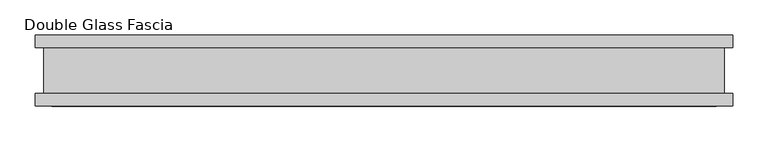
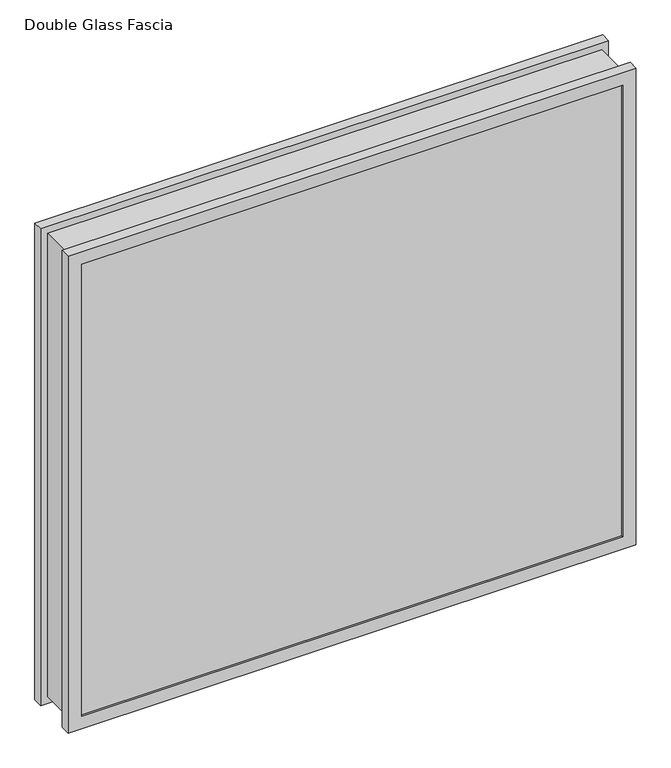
"""IFC4 building model written with IfcOpenShell, lengths in millimetres: proxy geometry, Glass_Fascia-Teknion-FHSG2-Double_Square_Corner-R2022 : Double Glass Fascia."""

from ifc_helpers import new_model, si_unit, frame, origin, place, context, project, spatial, polyline, outline, extrude, faceted_brep, source, transform, mapped, element, save


def double_glass_fascia_efe5b235(model_context):
    return source(origin(), model_context, "Body", "SolidModel", [
        faceted_brep([(479.6564641, -32.4352299, 863.600885), (479.6564641, -32.4352299, 15.0359151), (479.6564641, 32.4352299, 15.0359151), (479.6564641, 32.4352299, 863.600885), (-479.6564641, -32.4352299, 15.0359151), (-479.6564641, 32.4352299, 15.0359151), (-479.6564641, -32.4352299, 863.600885), (-479.6564641, 32.4352299, 863.600885), (468.4795792, 38.8962152, 852.4240001), (468.4795792, 38.8962152, 26.2128), (468.4795792, -38.8962152, 26.2128), (468.4795792, -38.8962152, 852.4240001), (485.2142184, 47.1322551, 869.1586393), (485.2142184, 47.1322551, 9.4781608), (485.2142184, 38.8962152, 9.4781608), (485.2142184, 38.8962152, 869.1586393), (468.3017792, 50.0558594, 852.2462001), (468.3017792, 50.0558594, 26.3906), (468.3017792, 47.1322551, 26.3906), (468.3017792, 47.1322551, 852.2462001), (491.5173792, 32.4352299, 875.4618001), (491.5173792, 32.4352299, 3.175), (491.5173792, 50.0558594, 3.175), (491.5173792, 50.0558594, 875.4618001), (-468.4795792, 38.8962152, 26.2128), (-468.4795792, -38.8962152, 26.2128), (-485.2142184, 47.1322551, 9.4781608), (-485.2142184, 38.8962152, 9.4781608), (-468.3017792, 50.0558594, 26.3906), (-468.3017792, 47.1322551, 26.3906), (-491.5173792, 32.4352299, 3.175), (-491.5173792, 50.0558594, 3.175), (-468.4795792, 38.8962152, 852.4240001), (-468.4795792, -38.8962152, 852.4240001), (-485.2142184, 47.1322551, 869.1586393), (-485.2142184, 38.8962152, 869.1586393), (-468.3017792, 50.0558594, 852.2462001), (-468.3017792, 47.1322551, 852.2462001), (-491.5173792, 32.4352299, 875.4618001), (-491.5173792, 50.0558594, 875.4618001), (491.5173792, -50.0558594, 875.4618001), (491.5173792, -50.0558594, 3.175), (491.5173792, -32.4352299, 3.175), (491.5173792, -32.4352299, 875.4618001), (468.4795792, -47.1322551, 852.4240001), (468.4795792, -47.1322551, 26.2128), (468.4795792, -50.0558594, 26.2128), (468.4795792, -50.0558594, 852.4240001), (485.2142184, -38.8962152, 869.1586393), (485.2142184, -38.8962152, 9.4781608), (485.2142184, -47.1322551, 9.4781608), (485.2142184, -47.1322551, 869.1586393), (-491.5173792, -50.0558594, 3.175), (-491.5173792, -32.4352299, 3.175), (-468.4795792, -47.1322551, 26.2128), (-468.4795792, -50.0558594, 26.2128), (-485.2142184, -38.8962152, 9.4781608), (-485.2142184, -47.1322551, 9.4781608), (-491.5173792, -50.0558594, 875.4618001), (-491.5173792, -32.4352299, 875.4618001), (-468.4795792, -47.1322551, 852.4240001), (-468.4795792, -50.0558594, 852.4240001), (-485.2142184, -38.8962152, 869.1586393), (-485.2142184, -47.1322551, 869.1586393)], [[[0, 1, 2, 3]], [[1, 4, 5, 2]], [[4, 6, 7, 5]], [[6, 0, 3, 7]], [[8, 9, 10, 11]], [[12, 13, 14, 15]], [[16, 17, 18, 19]], [[20, 21, 22, 23]], [[9, 24, 25, 10]], [[13, 26, 27, 14]], [[17, 28, 29, 18]], [[21, 30, 31, 22]], [[24, 32, 33, 25]], [[26, 34, 35, 27]], [[28, 36, 37, 29]], [[30, 38, 39, 31]], [[32, 8, 11, 33]], [[15, 14, 27, 35], [9, 8, 32, 24]], [[34, 12, 15, 35]], [[13, 12, 34, 26], [19, 18, 29, 37]], [[36, 16, 19, 37]], [[23, 22, 31, 39], [17, 16, 36, 28]], [[38, 20, 23, 39]], [[21, 20, 38, 30], [3, 2, 5, 7]], [[40, 41, 42, 43]], [[44, 45, 46, 47]], [[48, 49, 50, 51]], [[41, 52, 53, 42]], [[45, 54, 55, 46]], [[49, 56, 57, 50]], [[52, 58, 59, 53]], [[54, 60, 61, 55]], [[56, 62, 63, 57]], [[43, 42, 53, 59], [1, 0, 6, 4]], [[58, 40, 43, 59]], [[41, 40, 58, 52], [47, 46, 55, 61]], [[60, 44, 47, 61]], [[51, 50, 57, 63], [45, 44, 60, 54]], [[62, 48, 51, 63]], [[49, 48, 62, 56], [11, 10, 25, 33]]]),
        extrude(outline(polyline([(480.6923792, 40.9277344), (-480.6923792, 40.9277344), (-480.6923792, 46.8808594), (480.6923792, 46.8808594), (480.6923792, 40.9277344)])), frame((0.0, 0.0, 5.3275263), z_axis=(0.0, 0.0, 1.0), x_axis=(1.0, 0.0, 0.0)), (0.0, 0.0, 1.0), 867.4877281),
        extrude(outline(polyline([(480.6923792, -41.1791301), (480.6923792, -47.1322551), (-480.6923792, -47.1322551), (-480.6923792, -41.1791301), (480.6923792, -41.1791301)])), frame((0.0, 0.0, 5.3275263), z_axis=(0.0, 0.0, 1.0), x_axis=(1.0, 0.0, 0.0)), (0.0, 0.0, 1.0), 867.4877281),
    ])


if __name__ == "__main__":
    model = new_model("IFC4")
    model_context = context("Model", 3, world=origin())
    ifc_project = project(units=[si_unit("LENGTHUNIT", "METRE", prefix="MILLI")], contexts=[model_context])
    site = spatial("IfcSite", under=ifc_project)
    building = spatial("IfcBuilding", under=site)
    placement = place(None, origin())
    double_glass_fascia_shape = double_glass_fascia_efe5b235(model_context)
    element("IfcBuildingElementProxy", 1, Name="Glass_Fascia-Teknion-FHSG2-Double_Square_Corner-R2022 : Double Glass Fascia", ObjectType="Glass_Fascia-Teknion-FHSG2-Double_Square_Corner-R2022 : Double Glass Fascia", at=placement, inside=building, context=model_context, shape_type="MappedRepresentation", body=[
        mapped(double_glass_fascia_shape, transform((0.0, 0.0, 0.0), x_axis=(1.0, 0.0, 0.0), y_axis=(0.0, 1.0, 0.0), z_axis=(0.0, 0.0, 1.0))),
    ])
    save(model, "model.ifc")
